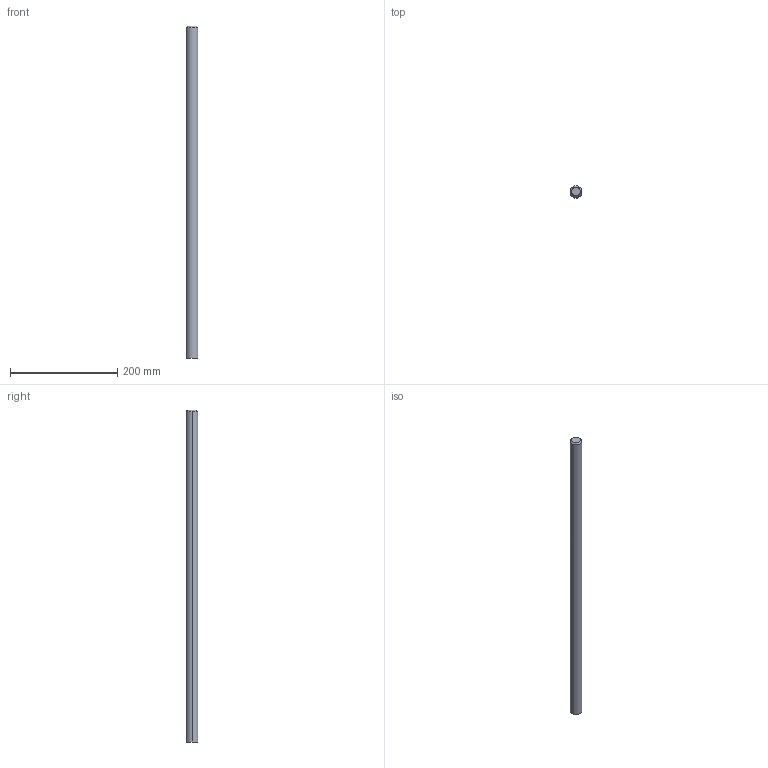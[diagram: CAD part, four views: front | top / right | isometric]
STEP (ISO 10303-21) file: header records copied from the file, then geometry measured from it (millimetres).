
FILE_DESCRIPTION(('CATIA V5 STEP Exchange'),'2;1');
FILE_NAME('D:\姚明阳\1、工装图纸\气囊线机加工零件\LS240507.stp','2024-05-30T08:22:30+00:00',('none'),('none'),'CATIA Version 5 Release 21 GA (IN-10)','CATIA V5 STEP AP214','none');
FILE_SCHEMA(('AUTOMOTIVE_DESIGN { 1 0 10303 214 1 1 1 1 }'));
Length unit declared in the file: millimetre
Products named in the file (1): Part1
Bounding box: 22 x 22 x 620 mm (x, y, z)
Volume: 235399.5 mm3; surface area: 43478.4 mm2
Topology: 1 solids, 1 shells, 6 faces, 10 edges, 6 vertices
Faces by surface type: plane 2, cylinder 2, cone 2
Entity records: 155 total; most frequent: CARTESIAN_POINT 22, DIRECTION 20, ORIENTED_EDGE 20, AXIS2_PLACEMENT_3D 12, EDGE_CURVE 10, ADVANCED_FACE 6, CIRCLE 6, EDGE_LOOP 6
